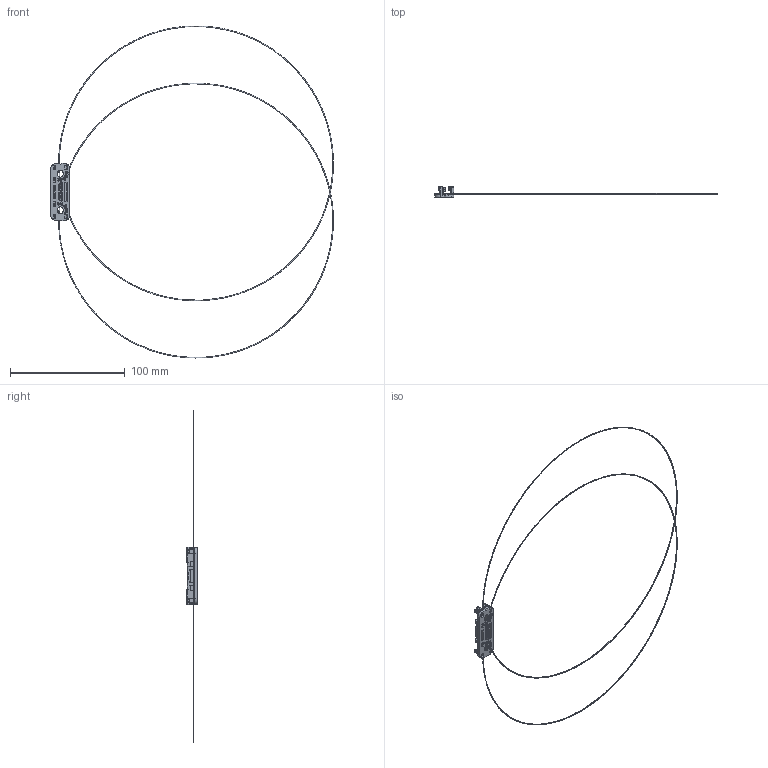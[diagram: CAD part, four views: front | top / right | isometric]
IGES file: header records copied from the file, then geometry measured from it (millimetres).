
Start section: 3D InterOp IGES (v. 2022 1.0.1), Spatial Corp. Copyright (c) 1999-2020.
Global section: file name: E554__11.01.505 Nigiri_cust.igs; native system: Spatial Corp.; preprocessor: 3D InterOp GENERIC/IGES 3.0; author: Noname; organization: Noname; date: 20251208.171336; units: millimetre
Bounding box: 246.88 x 9.4 x 289.89 mm (x, y, z)
Volume: 3517.1 mm3; surface area: 5899.1 mm2
Topology: 1 solids, 1 shells, 607 faces, 1644 edges, 1029 vertices
Faces by surface type: bspline 230, extrusion 219, cylinder 85, cone 45, revolution 28
